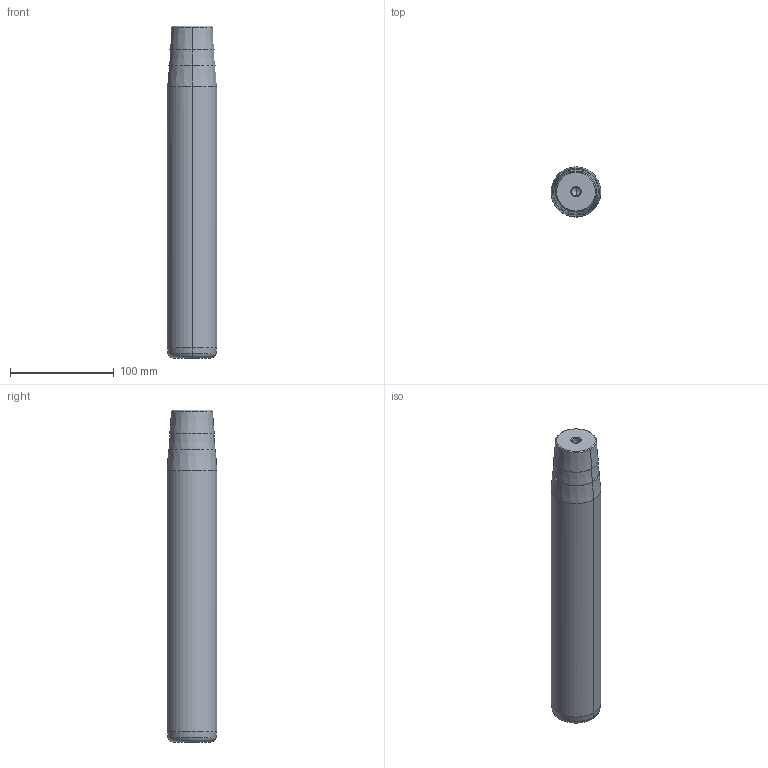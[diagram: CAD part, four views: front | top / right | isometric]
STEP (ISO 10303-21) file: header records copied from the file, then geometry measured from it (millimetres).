
FILE_DESCRIPTION(('CATIA V5 STEP Exchange'),'2;1');
FILE_NAME('C:\Users\Utente\Desktop\IO LAVORO\3D X SITO CF\X SITO\722\722-48x280x320.stp','2021-01-08T15:00:43+00:00',('none'),('none'),'CATIA Version 5 Release 20 GA (IN-10)','CATIA V5 STEP AP203','none');
FILE_SCHEMA(('CONFIG_CONTROL_DESIGN'));
Length unit declared in the file: millimetre
Products named in the file (1): 722-48x280x320
Bounding box: 48 x 48 x 320 mm (x, y, z)
Volume: 556230.5 mm3; surface area: 51389.7 mm2
Topology: 1 solids, 1 shells, 32 faces, 98 edges, 66 vertices
Faces by surface type: cone 22, cylinder 6, plane 2, torus 2
Entity records: 1166 total; most frequent: CARTESIAN_POINT 279, ORIENTED_EDGE 188, DIRECTION 148, EDGE_CURVE 94, AXIS2_PLACEMENT_3D 89, VERTEX_POINT 66, CIRCLE 56, EDGE_LOOP 34
